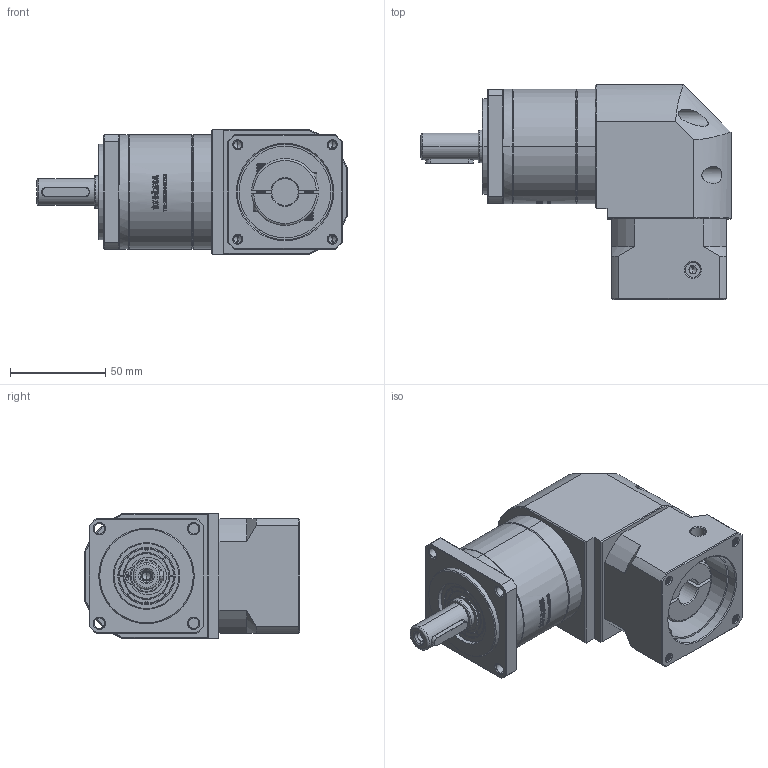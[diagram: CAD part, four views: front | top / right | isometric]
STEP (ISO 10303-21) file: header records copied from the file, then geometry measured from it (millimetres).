
FILE_DESCRIPTION (( 'STEP AP214' ), '1' );
FILE_NAME ('ZFR60-D14-L1-14-50-70-M5.STEP', '2022-04-20T09:03:27', ( '' ), ( 'Microsoft' ), 'SwSTEP 2.0', 'SolidWorks 2016', '' );
FILE_SCHEMA (( 'AUTOMOTIVE_DESIGN' ));
Length unit declared in the file: millimetre
Products named in the file (1): ZFR60-D14-L1-14-50-70-M5
Bounding box: 162.5 x 112.7 x 65 mm (x, y, z)
Volume: 536424.3 mm3; surface area: 78801.5 mm2
Topology: 5 solids, 6 shells, 2692 faces, 7317 edges, 4762 vertices
Faces by surface type: plane 1397, bspline 591, cylinder 402, cone 288, torus 14
Entity records: 149286 total; most frequent: CARTESIAN_POINT 57441, ORIENTED_EDGE 14590, DIRECTION 10446, EDGE_CURVE 7295, VERTEX_POINT 4762, VECTOR 4400, LINE 4400, AXIS2_PLACEMENT_3D 3023
